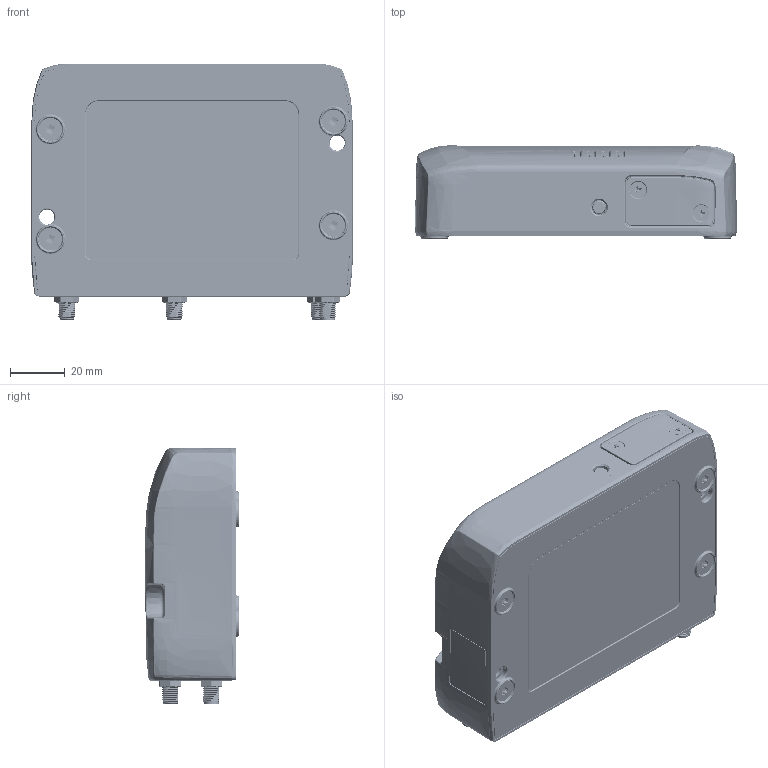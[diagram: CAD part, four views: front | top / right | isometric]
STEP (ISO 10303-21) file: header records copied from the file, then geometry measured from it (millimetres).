
FILE_DESCRIPTION((''),'2;1');
FILE_NAME('RIVIAN_ASSY_MASTER_ASM','2026-03-10T11:31:59',('jle'),('Sierra Wireless'),'CREO PARAMETRIC BY PTC INC, 2022124','CREO PARAMETRIC BY PTC INC, 2022124','');
FILE_SCHEMA(('AUTOMOTIVE_DESIGN { 1 0 10303 214 1 1 1 1 }'));
Products named in the file (30): 5308218; 5308219; RIVIAN-BRONCO_PCB_DV4_JUL162025; 12401977; RJ45-WMJK004-PA881G50-2-L3; TW3001WGR-2XNP5K-X5X_ASM; G85D1171X1XHHR-4FF; RIVIAN_PCA_MASTER_ASM; SMA_MAR212022; RP_SMA_MAR212022; 5307735; 5308222; 5307286; 5308224; 5308233_GASKET; 5308233_PSA; 5308223_ASM; 5307745; 5307132_2X1-RJ45-GASKET; 5305508; 5305390; 5308225; 5308226; 5307485; 5307485_PSA; 5307485_ASM; RIVIAN_LABEL; RIVIAN_LABEL_SIDE; 5308299; RIVIAN_ASSY_MASTER_ASM
Assembly tree (43 placements, depth 3):
  RIVIAN_ASSY_MASTER_ASM
    5308218
    5308219
    RIVIAN_PCA_MASTER_ASM
      RIVIAN-BRONCO_PCB_DV4_JUL162025
      12401977
      RJ45-WMJK004-PA881G50-2-L3
      TW3001WGR-2XNP5K-X5X_ASM
      G85D1171X1XHHR-4FF  x2
    SMA_MAR212022  x3
    RP_SMA_MAR212022
    5307735  x4
    5308222
    5307286  x2
    5308223_ASM
      5308224
      5308233_GASKET
      5308233_PSA  x2
    5307745
    5307132_2X1-RJ45-GASKET
    5305508  x2
    5305390  x2
    5308225
    5308226
    5307485_ASM  x2
      5307485
      5307485_PSA
    RIVIAN_LABEL
    RIVIAN_LABEL_SIDE
    5308299  x4
Bounding box: 117.38 x 34.01 x 93.71 mm (x, y, z)
Volume: 113089.1 mm3; surface area: 111909.6 mm2
Topology: 41 solids, 70 shells, 15926 faces, 42543 edges, 27015 vertices
Faces by surface type: plane 8604, cylinder 3372, bspline 1804, cone 732, extrusion 702, torus 373, sphere 335, revolution 4
Entity records: 696017 total; most frequent: CARTESIAN_POINT 275292, ORIENTED_EDGE 72958, DIRECTION 60114, EDGE_CURVE 36479, VECTOR 24616, PRESENTATION_STYLE_ASSIGNMENT 24043, LINE 23914, STYLED_ITEM 23707
